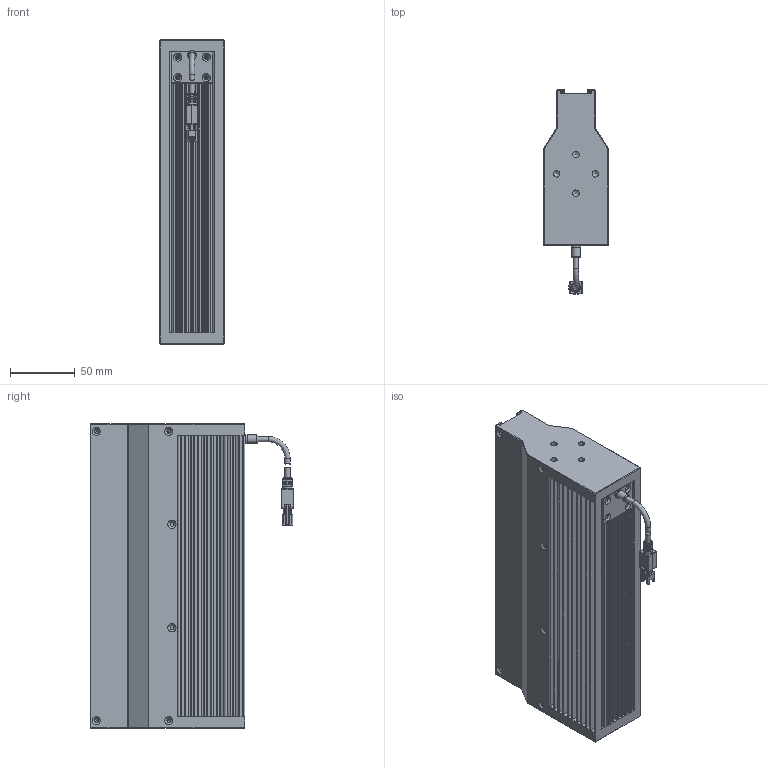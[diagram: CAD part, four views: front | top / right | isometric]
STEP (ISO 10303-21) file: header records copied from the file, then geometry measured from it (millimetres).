
FILE_DESCRIPTION (( 'STEP AP203' ), '1' );
FILE_NAME ('OPT-LSNL236-R-V1.0尨砩芞.STEP', '2025-02-17T09:01:18', ( '' ), ( '' ), 'SwSTEP 2.0', 'SolidWorks 2016', '' );
FILE_SCHEMA (( 'CONFIG_CONTROL_DESIGN' ));
Length unit declared in the file: millimetre
Products named in the file (1): OPT-LSNL236-R-V1.0尨砩芞
Bounding box: 50.02 x 158 x 236 mm (x, y, z)
Volume: 866343.1 mm3; surface area: 283862.8 mm2
Topology: 8 solids, 13 shells, 977 faces, 2688 edges, 1725 vertices
Faces by surface type: plane 584, cylinder 322, cone 42, bspline 21, torus 8
Full cylindrical faces by diameter (mm): 1.1 x2, 1.4 x2, 2.5 x8, 3 x8, 3.4 x16, 3.5 x1, 4.1 x4, 5 x8, 5.8 x1, 6.5 x1, 7 x1, 7.5 x1
Entity records: 33200 total; most frequent: CARTESIAN_POINT 9387, ORIENTED_EDGE 5056, DIRECTION 4637, EDGE_CURVE 2528, VERTEX_POINT 1672, LINE 1635, VECTOR 1635, AXIS2_PLACEMENT_3D 1501
